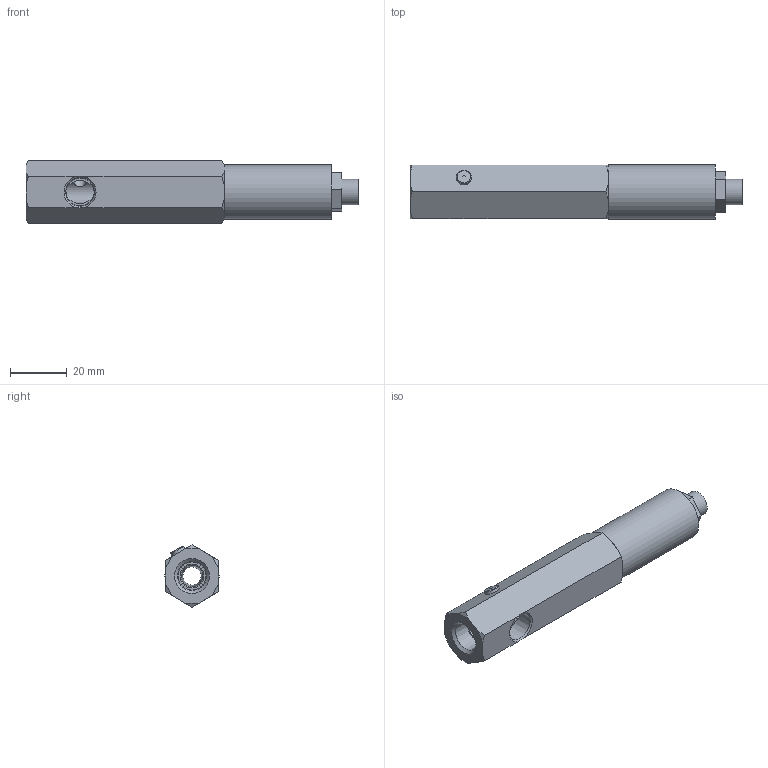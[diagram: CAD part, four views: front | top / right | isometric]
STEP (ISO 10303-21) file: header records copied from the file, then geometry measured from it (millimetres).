
FILE_DESCRIPTION (( 'STEP AP214' ), '1' );
FILE_NAME ('SSV3-G.STEP', '2024-09-18T19:12:44', ( '' ), ( '' ), 'SwSTEP 2.0', 'SolidWorks 2018', '' );
FILE_SCHEMA (( 'AUTOMOTIVE_DESIGN' ));
Length unit declared in the file: inch
Products named in the file (3): 1011; SSV3-G; GS-ST14
Assembly tree (2 placements, depth 2):
  SSV3-G
    GS-ST14
    1011
Bounding box: 117.05 x 19.08 x 21.94 mm (x, y, z)
Volume: 27199.3 mm3; surface area: 11898.8 mm2
Topology: 2 solids, 2 shells, 73 faces, 176 edges, 116 vertices
Faces by surface type: plane 51, cylinder 14, cone 7, torus 1
Full cylindrical faces by diameter (mm): 4.2 x3, 5.334 x1, 7.518 x1, 7.671 x1, 7.823 x1, 8.433 x1, 8.95 x1, 11.6 x1, 12.6 x1, 19.1 x1
Entity records: 2247 total; most frequent: CARTESIAN_POINT 479, DIRECTION 333, ORIENTED_EDGE 296, EDGE_CURVE 148, AXIS2_PLACEMENT_3D 117, VERTEX_POINT 109, EDGE_LOOP 109, VECTOR 99
